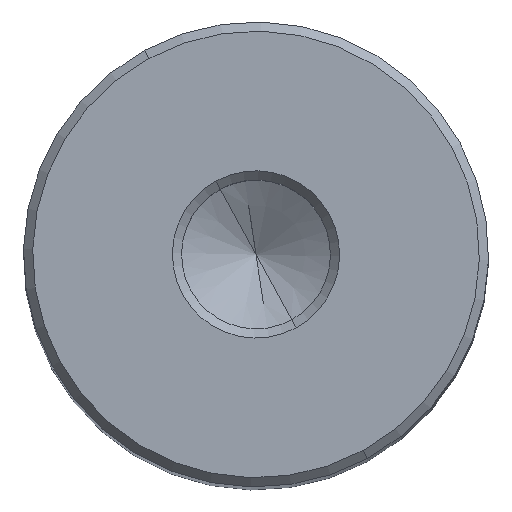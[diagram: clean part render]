
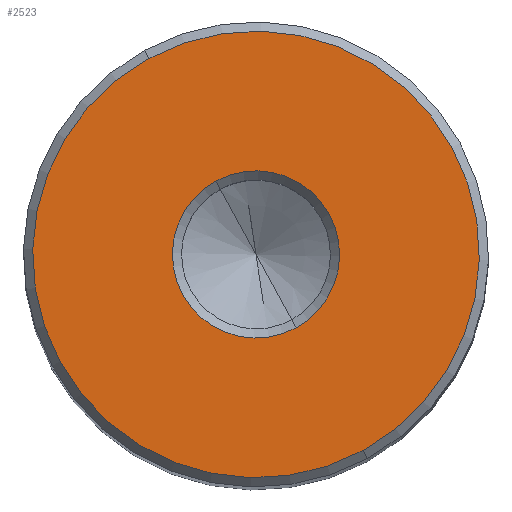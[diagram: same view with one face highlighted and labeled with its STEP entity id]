
A CAD part, top view. The second image highlights one B-rep face of the part: STEP entity #2523.
In plain terms, the highlighted planar face has unit normal (0, 0, 1).
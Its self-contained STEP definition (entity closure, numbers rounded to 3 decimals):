
#2467=AXIS2_PLACEMENT_3D('Circle Axis2P3D',#2465,#2466,$) ;
#2486=AXIS2_PLACEMENT_3D('Circle Axis2P3D',#2484,#2485,$) ;
#2499=AXIS2_PLACEMENT_3D('Plane Axis2P3D',#2496,#2497,#2498) ;
#2507=AXIS2_PLACEMENT_3D('Circle Axis2P3D',#2505,#2506,$) ;
#2516=AXIS2_PLACEMENT_3D('Circle Axis2P3D',#2514,#2515,$) ;
#2462=CARTESIAN_POINT('Vertex',(-5.756,10.535,56.)) ;
#2465=CARTESIAN_POINT('Axis2P3D Location',(0.,0.,56.)) ;
#2469=CARTESIAN_POINT('Vertex',(5.756,-10.535,56.)) ;
#2484=CARTESIAN_POINT('Axis2P3D Location',(0.,0.,56.)) ;
#2496=CARTESIAN_POINT('Axis2P3D Location',(0.,12.005,56.)) ;
#2505=CARTESIAN_POINT('Axis2P3D Location',(0.,0.,56.)) ;
#2509=CARTESIAN_POINT('Vertex',(-2.155,3.945,56.)) ;
#2511=CARTESIAN_POINT('Vertex',(2.155,-3.945,56.)) ;
#2514=CARTESIAN_POINT('Axis2P3D Location',(0.,0.,56.)) ;
#2466=DIRECTION('Axis2P3D Direction',(0.,0.,-1.)) ;
#2485=DIRECTION('Axis2P3D Direction',(0.,0.,-1.)) ;
#2497=DIRECTION('Axis2P3D Direction',(-0.,0.,1.)) ;
#2498=DIRECTION('Axis2P3D XDirection',(0.,-1.,0.)) ;
#2506=DIRECTION('Axis2P3D Direction',(-0.,0.,1.)) ;
#2515=DIRECTION('Axis2P3D Direction',(-0.,0.,1.)) ;
#2502=ORIENTED_EDGE('',*,*,#2471,.T.) ;
#2503=ORIENTED_EDGE('',*,*,#2488,.T.) ;
#2520=ORIENTED_EDGE('',*,*,#2513,.F.) ;
#2521=ORIENTED_EDGE('',*,*,#2518,.F.) ;
#2522=FACE_BOUND('',#2519,.T.) ;
#2523=ADVANCED_FACE('NOCUT',(#2504,#2522),#2500,.T.) ;
#2468=CIRCLE('generated circle',#2467,12.005) ;
#2487=CIRCLE('generated circle',#2486,12.005) ;
#2508=CIRCLE('generated circle',#2507,4.495) ;
#2517=CIRCLE('generated circle',#2516,4.495) ;
#2471=EDGE_CURVE('',#2470,#2463,#2468,.F.) ;
#2488=EDGE_CURVE('',#2463,#2470,#2487,.F.) ;
#2513=EDGE_CURVE('',#2510,#2512,#2508,.T.) ;
#2518=EDGE_CURVE('',#2512,#2510,#2517,.T.) ;
#2501=EDGE_LOOP('',(#2502,#2503)) ;
#2519=EDGE_LOOP('',(#2520,#2521)) ;
#2504=FACE_OUTER_BOUND('',#2501,.T.) ;
#2500=PLANE('',#2499) ;
#2463=VERTEX_POINT('',#2462) ;
#2470=VERTEX_POINT('',#2469) ;
#2510=VERTEX_POINT('',#2509) ;
#2512=VERTEX_POINT('',#2511) ;
